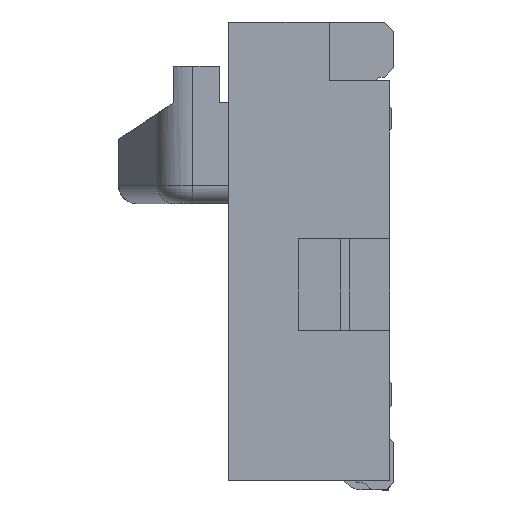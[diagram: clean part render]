
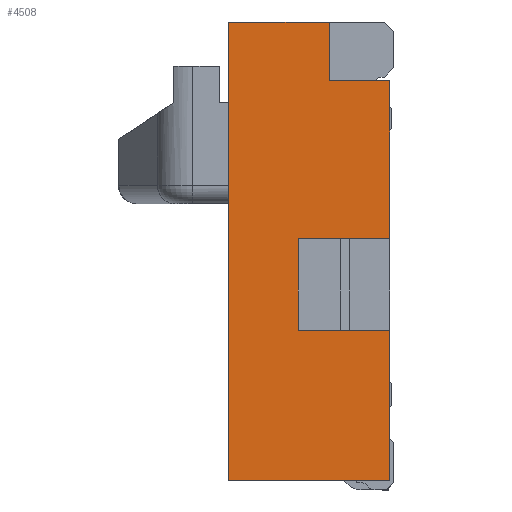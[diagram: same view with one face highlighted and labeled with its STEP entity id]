
A CAD part, left-side view. The second image highlights one B-rep face of the part: STEP entity #4508.
In plain terms, the highlighted planar face has unit normal (-1, 0, 0).
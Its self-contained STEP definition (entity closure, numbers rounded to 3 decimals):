
#2022 = VERTEX_POINT ( 'NONE', #12582 ) ;
#2065 = VERTEX_POINT ( 'NONE', #12681 ) ;
#2096 = EDGE_CURVE ( 'NONE', #2065, #2022, #12753, .T. ) ;
#2099 = VERTEX_POINT ( 'NONE', #12759 ) ;
#2130 = EDGE_CURVE ( 'NONE', #2022, #2099, #12826, .T. ) ;
#2142 = EDGE_CURVE ( 'NONE', #2065, #2207, #12815, .T. ) ;
#2207 = VERTEX_POINT ( 'NONE', #12949 ) ;
#2396 = VERTEX_POINT ( 'NONE', #13313 ) ;
#2498 = VERTEX_POINT ( 'NONE', #13507 ) ;
#2504 = EDGE_CURVE ( 'NONE', #2498, #2396, #13541, .T. ) ;
#4085 = VERTEX_POINT ( 'NONE', #16390 ) ;
#4095 = VERTEX_POINT ( 'NONE', #16429 ) ;
#4132 = EDGE_CURVE ( 'NONE', #4085, #4095, #16552, .T. ) ;
#4440 = EDGE_CURVE ( 'NONE', #4515, #2207, #17113, .T. ) ;
#4448 = EDGE_LOOP ( 'NONE', ( #4505, #4507, #4509, #4495, #4510, #4496, #4498, #4493, #4500, #4497 ) ) ;
#4473 = VERTEX_POINT ( 'NONE', #17131 ) ;
#4493 = ORIENTED_EDGE ( 'NONE', *, *, #4502, .F. ) ;
#4495 = ORIENTED_EDGE ( 'NONE', *, *, #4511, .T. ) ;
#4496 = ORIENTED_EDGE ( 'NONE', *, *, #4512, .F. ) ;
#4497 = ORIENTED_EDGE ( 'NONE', *, *, #2096, .F. ) ;
#4498 = ORIENTED_EDGE ( 'NONE', *, *, #4132, .F. ) ;
#4500 = ORIENTED_EDGE ( 'NONE', *, *, #2130, .F. ) ;
#4502 = EDGE_CURVE ( 'NONE', #2099, #4085, #17153, .T. ) ;
#4504 = EDGE_CURVE ( 'NONE', #4515, #4473, #17159, .T. ) ;
#4505 = ORIENTED_EDGE ( 'NONE', *, *, #2142, .T. ) ;
#4507 = ORIENTED_EDGE ( 'NONE', *, *, #4440, .F. ) ;
#4508 = ADVANCED_FACE ( 'NONE', ( #17208 ), #17154, .F. ) ;
#4509 = ORIENTED_EDGE ( 'NONE', *, *, #4504, .T. ) ;
#4510 = ORIENTED_EDGE ( 'NONE', *, *, #2504, .F. ) ;
#4511 = EDGE_CURVE ( 'NONE', #4473, #2396, #17194, .T. ) ;
#4512 = EDGE_CURVE ( 'NONE', #4095, #2498, #17191, .T. ) ;
#4515 = VERTEX_POINT ( 'NONE', #17200 ) ;
#12582 = CARTESIAN_POINT ( 'NONE',  ( -3., 0.52, -1.68 ) ) ;
#12681 = CARTESIAN_POINT ( 'NONE',  ( -3., 0.52, -1.18 ) ) ;
#12751 = DIRECTION ( 'NONE',  ( 0., 0., -1. ) ) ;
#12752 = VECTOR ( 'NONE', #12751, 1000. ) ;
#12753 = LINE ( 'NONE', #12768, #12752 ) ;
#12759 = CARTESIAN_POINT ( 'NONE',  ( -3., 0.02, -1.68 ) ) ;
#12768 = CARTESIAN_POINT ( 'NONE',  ( -3., 0.52, -1.18 ) ) ;
#12815 = LINE ( 'NONE', #12821, #12862 ) ;
#12821 = CARTESIAN_POINT ( 'NONE',  ( -3., 0.52, -1.18 ) ) ;
#12823 = DIRECTION ( 'NONE',  ( 0., -1., 0. ) ) ;
#12824 = VECTOR ( 'NONE', #12823, 1000. ) ;
#12825 = CARTESIAN_POINT ( 'NONE',  ( -3., 0.52, -1.68 ) ) ;
#12826 = LINE ( 'NONE', #12825, #12824 ) ;
#12861 = DIRECTION ( 'NONE',  ( 0., -1., 0. ) ) ;
#12862 = VECTOR ( 'NONE', #12861, 1000. ) ;
#12949 = CARTESIAN_POINT ( 'NONE',  ( -3., 0.02, -1.18 ) ) ;
#13313 = CARTESIAN_POINT ( 'NONE',  ( -3., 0.35, 0. ) ) ;
#13507 = CARTESIAN_POINT ( 'NONE',  ( -3., 0.9, 0. ) ) ;
#13537 = DIRECTION ( 'NONE',  ( 0., -1., 0. ) ) ;
#13538 = VECTOR ( 'NONE', #13537, 1000. ) ;
#13539 = CARTESIAN_POINT ( 'NONE',  ( -3., 0.9, 0. ) ) ;
#13541 = LINE ( 'NONE', #13539, #13538 ) ;
#16390 = CARTESIAN_POINT ( 'NONE',  ( -3., 0.02, -2.5 ) ) ;
#16429 = CARTESIAN_POINT ( 'NONE',  ( -3., 0.9, -2.5 ) ) ;
#16549 = DIRECTION ( 'NONE',  ( 0., 1., 0. ) ) ;
#16550 = VECTOR ( 'NONE', #16549, 1000. ) ;
#16551 = CARTESIAN_POINT ( 'NONE',  ( -3., 0.02, -2.5 ) ) ;
#16552 = LINE ( 'NONE', #16551, #16550 ) ;
#17108 = DIRECTION ( 'NONE',  ( 0., 0., -1. ) ) ;
#17109 = VECTOR ( 'NONE', #17108, 1000. ) ;
#17110 = CARTESIAN_POINT ( 'NONE',  ( -3., 0.02, -2.5 ) ) ;
#17113 = LINE ( 'NONE', #17110, #17109 ) ;
#17131 = CARTESIAN_POINT ( 'NONE',  ( -3., 0.35, -0.32 ) ) ;
#17152 = CARTESIAN_POINT ( 'NONE',  ( -3., 0.02, -2.5 ) ) ;
#17153 = LINE ( 'NONE', #17152, #17207 ) ;
#17154 = PLANE ( 'NONE',  #17198 ) ;
#17159 = LINE ( 'NONE', #17204, #17203 ) ;
#17187 = DIRECTION ( 'NONE',  ( 0., 0., 1. ) ) ;
#17188 = VECTOR ( 'NONE', #17187, 1000. ) ;
#17189 = CARTESIAN_POINT ( 'NONE',  ( -3., 0.9, 0. ) ) ;
#17191 = LINE ( 'NONE', #17189, #17188 ) ;
#17192 = DIRECTION ( 'NONE',  ( 0., 0., 1. ) ) ;
#17193 = VECTOR ( 'NONE', #17192, 1000. ) ;
#17194 = LINE ( 'NONE', #17205, #17193 ) ;
#17195 = DIRECTION ( 'NONE',  ( 0., 0., 1. ) ) ;
#17196 = DIRECTION ( 'NONE',  ( 1., 0., 0. ) ) ;
#17197 = CARTESIAN_POINT ( 'NONE',  ( -3., 0.9, -2.4 ) ) ;
#17198 = AXIS2_PLACEMENT_3D ( 'NONE', #17197, #17196, #17195 ) ;
#17200 = CARTESIAN_POINT ( 'NONE',  ( -3., 0.02, -0.32 ) ) ;
#17202 = DIRECTION ( 'NONE',  ( 0., 1., 0. ) ) ;
#17203 = VECTOR ( 'NONE', #17202, 1000. ) ;
#17204 = CARTESIAN_POINT ( 'NONE',  ( -3., 0.02, -0.32 ) ) ;
#17205 = CARTESIAN_POINT ( 'NONE',  ( -3., 0.35, 0. ) ) ;
#17206 = DIRECTION ( 'NONE',  ( 0., 0., -1. ) ) ;
#17207 = VECTOR ( 'NONE', #17206, 1000. ) ;
#17208 = FACE_OUTER_BOUND ( 'NONE', #4448, .T. ) ;
